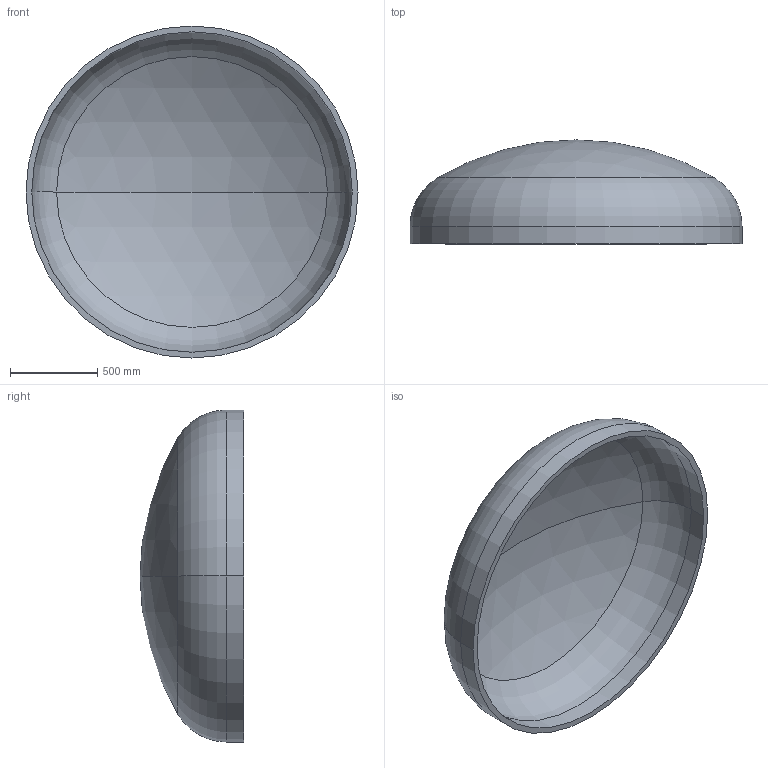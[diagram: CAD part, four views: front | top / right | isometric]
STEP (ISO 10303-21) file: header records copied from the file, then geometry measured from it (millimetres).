
FILE_DESCRIPTION (( 'STEP AP203' ), '1' );
FILE_NAME ('DIN 28013 Korbbogenform_-_Boden DIN 28013 - 1900 x 100 - I - s=33.step', '2016-07-01T13:05:23', ( '' ), ( '' ), 'SwSTEP 2.0', 'SolidWorks 2013', '' );
FILE_SCHEMA (( 'CONFIG_CONTROL_DESIGN' ));
Length unit declared in the file: millimetre
Products named in the file (1): DIN 28013 Korbbogenform_-_Boden DIN 28013 - 1900 x 100 - I - s=33
Bounding box: 1900 x 594.81 x 1900 mm (x, y, z)
Volume: 145783912.6 mm3; surface area: 9031223.1 mm2
Topology: 1 solids, 1 shells, 13 faces, 24 edges, 14 vertices
Faces by surface type: torus 4, cylinder 4, sphere 4, plane 1
Entity records: 407 total; most frequent: DIRECTION 72, CARTESIAN_POINT 52, ORIENTED_EDGE 48, AXIS2_PLACEMENT_3D 34, EDGE_CURVE 24, CIRCLE 20, VERTEX_POINT 14, EDGE_LOOP 14
